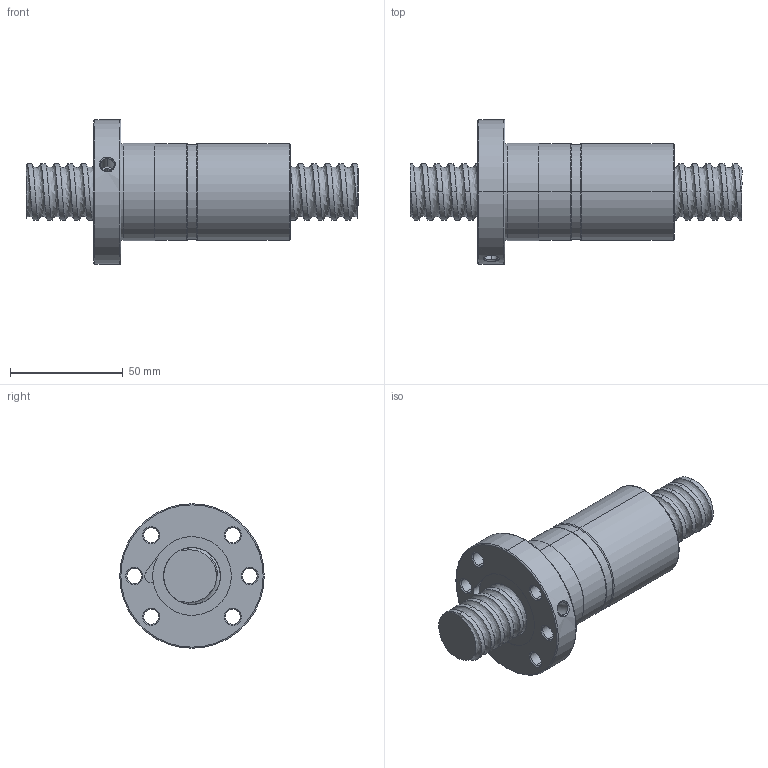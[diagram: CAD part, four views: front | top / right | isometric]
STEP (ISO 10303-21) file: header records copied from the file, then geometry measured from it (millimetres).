
FILE_DESCRIPTION (( 'STEP AP214' ), '1' );
FILE_NAME ('FDDC02506T4-C-A.STEP', '2010-07-07T02:38:40', ( 'XPAUTO' ), ( 'XPAUTO' ), 'SwSTEP 2.0', 'SolidWorks 2007', '' );
FILE_SCHEMA (( 'AUTOMOTIVE_DESIGN' ));
Length unit declared in the file: millimetre
Products named in the file (3): FDDC02506T4-C-A; FDDC02506T4-C-A.sldasm-Part-1_預設; FDDC02506T4-C-A.sldasm-Part-2_預設
Assembly tree (2 placements, depth 2):
  FDDC02506T4-C-A
    FDDC02506T4-C-A.sldasm-Part-2_預設
    FDDC02506T4-C-A.sldasm-Part-1_預設
Bounding box: 147 x 64 x 64 mm (x, y, z)
Volume: 163496.7 mm3; surface area: 41401.6 mm2
Topology: 2 solids, 2 shells, 148 faces, 374 edges, 235 vertices
Faces by surface type: cylinder 92, cone 24, plane 17, torus 10, bspline 5
Entity records: 31421 total; most frequent: CARTESIAN_POINT 27909, ORIENTED_EDGE 748, DIRECTION 672, EDGE_CURVE 374, AXIS2_PLACEMENT_3D 274, VERTEX_POINT 235, EDGE_LOOP 169, FACE_OUTER_BOUND 148
